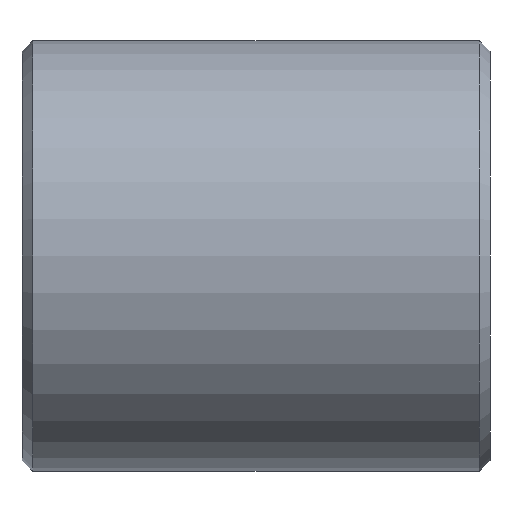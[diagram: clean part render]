
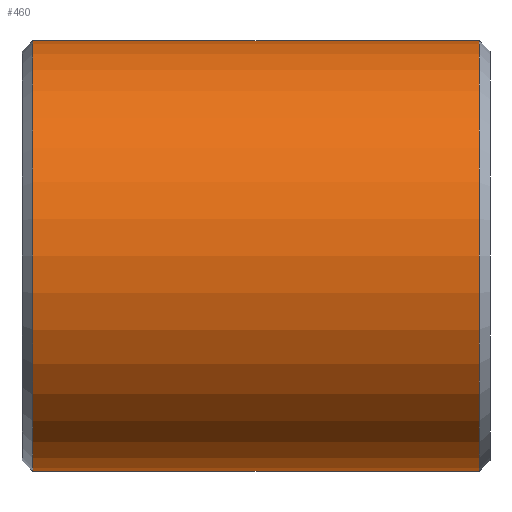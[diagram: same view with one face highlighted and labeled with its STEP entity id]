
A CAD part, left-side view. The second image highlights one B-rep face of the part: STEP entity #460.
In plain terms, the highlighted cylindrical face has radius 20 mm (diameter 40 mm), a partial arc.
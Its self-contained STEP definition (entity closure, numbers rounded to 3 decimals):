
#8 = CARTESIAN_POINT ( 'NONE',  ( 0., 1., 20. ) ) ;
#29 = CARTESIAN_POINT ( 'NONE',  ( 0., 42.5, -20. ) ) ;
#34 = DIRECTION ( 'NONE',  ( 0., 0., -1. ) ) ;
#38 = DIRECTION ( 'NONE',  ( 0., 1., 0. ) ) ;
#43 = DIRECTION ( 'NONE',  ( 0., 1., 0. ) ) ;
#95 = DIRECTION ( 'NONE',  ( 0., -1., 0. ) ) ;
#115 = CARTESIAN_POINT ( 'NONE',  ( 0., 42.5, 0. ) ) ;
#134 = DIRECTION ( 'NONE',  ( 0., 0., -1. ) ) ;
#153 = EDGE_CURVE ( 'NONE', #228, #167, #544, .T. ) ;
#167 = VERTEX_POINT ( 'NONE', #690 ) ;
#191 = ORIENTED_EDGE ( 'NONE', *, *, #693, .T. ) ;
#228 = VERTEX_POINT ( 'NONE', #29 ) ;
#229 = EDGE_LOOP ( 'NONE', ( #419, #275, #191, #324 ) ) ;
#237 = CARTESIAN_POINT ( 'NONE',  ( 0., 1., -20. ) ) ;
#245 = CARTESIAN_POINT ( 'NONE',  ( 0., 1., 0. ) ) ;
#270 = AXIS2_PLACEMENT_3D ( 'NONE', #115, #95, #134 ) ;
#275 = ORIENTED_EDGE ( 'NONE', *, *, #153, .F. ) ;
#293 = AXIS2_PLACEMENT_3D ( 'NONE', #245, #43, #294 ) ;
#294 = DIRECTION ( 'NONE',  ( 0., 0., 1. ) ) ;
#295 = EDGE_CURVE ( 'NONE', #500, #445, #528, .T. ) ;
#324 = ORIENTED_EDGE ( 'NONE', *, *, #295, .T. ) ;
#333 = DIRECTION ( 'NONE',  ( 0., -1., 0. ) ) ;
#419 = ORIENTED_EDGE ( 'NONE', *, *, #622, .F. ) ;
#445 = VERTEX_POINT ( 'NONE', #8 ) ;
#455 = CARTESIAN_POINT ( 'NONE',  ( 0., 42.5, -20. ) ) ;
#460 = ADVANCED_FACE ( 'NONE', ( #535 ), #591, .T. ) ;
#471 = AXIS2_PLACEMENT_3D ( 'NONE', #833, #38, #34 ) ;
#500 = VERTEX_POINT ( 'NONE', #237 ) ;
#528 = CIRCLE ( 'NONE', #293, 20. ) ;
#535 = FACE_OUTER_BOUND ( 'NONE', #229, .T. ) ;
#544 = CIRCLE ( 'NONE', #471, 20. ) ;
#591 = CYLINDRICAL_SURFACE ( 'NONE', #270, 20. ) ;
#618 = LINE ( 'NONE', #775, #629 ) ;
#622 = EDGE_CURVE ( 'NONE', #167, #445, #618, .T. ) ;
#629 = VECTOR ( 'NONE', #780, 1000. ) ;
#640 = LINE ( 'NONE', #455, #644 ) ;
#644 = VECTOR ( 'NONE', #333, 1000. ) ;
#690 = CARTESIAN_POINT ( 'NONE',  ( 0., 42.5, 20. ) ) ;
#693 = EDGE_CURVE ( 'NONE', #228, #500, #640, .T. ) ;
#775 = CARTESIAN_POINT ( 'NONE',  ( 0., 42.5, 20. ) ) ;
#780 = DIRECTION ( 'NONE',  ( 0., -1., 0. ) ) ;
#833 = CARTESIAN_POINT ( 'NONE',  ( 0., 42.5, 0. ) ) ;
